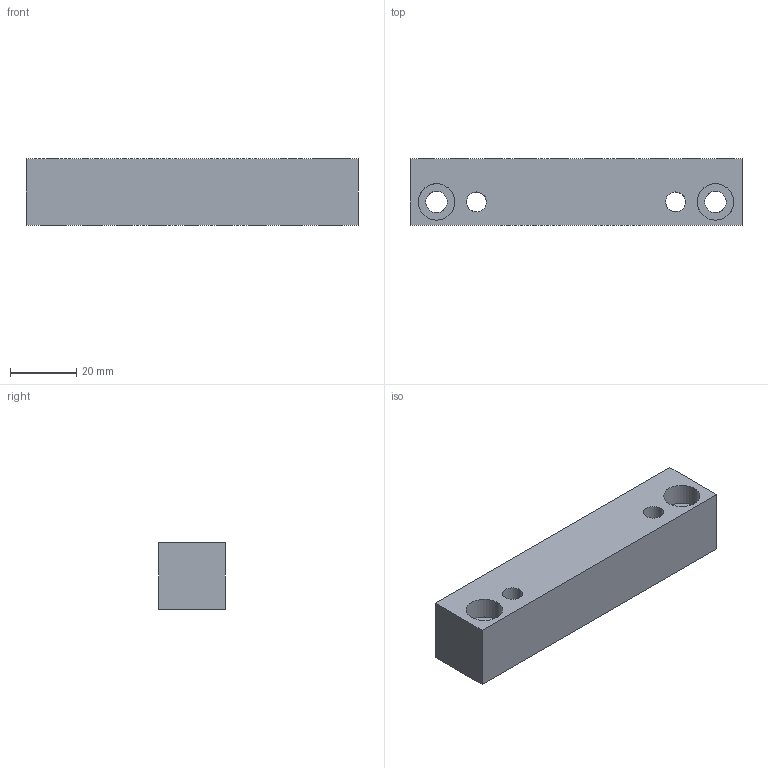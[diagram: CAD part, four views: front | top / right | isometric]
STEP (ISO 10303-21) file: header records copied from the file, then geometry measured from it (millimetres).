
FILE_DESCRIPTION(('CATIA V5 STEP Exchange'),'2;1');
FILE_NAME('C:\Users\Utente\Desktop\3D files G405\G40520100.stp','2020-04-22T09:20:45+00:00',('none'),('none'),'CATIA Version 5 Release 20 GA (IN-10)','CATIA V5 STEP AP203','none');
FILE_SCHEMA(('CONFIG_CONTROL_DESIGN'));
Length unit declared in the file: millimetre
Products named in the file (1): G40520100
Bounding box: 100 x 20 x 20 mm (x, y, z)
Surface area: 13597.4 mm2 (no closed solid volume)
Topology: 0 solids, 386 shells, 386 faces, 1656 edges, 1480 vertices
Faces by surface type: revolution 212, cylinder 128, plane 46
Entity records: 18236 total; most frequent: CARTESIAN_POINT 5969, DIRECTION 1934, ORIENTED_EDGE 1480, EDGE_CURVE 1480, VERTEX_POINT 1480, AXIS2_PLACEMENT_3D 845, VECTOR 704, LINE 704
